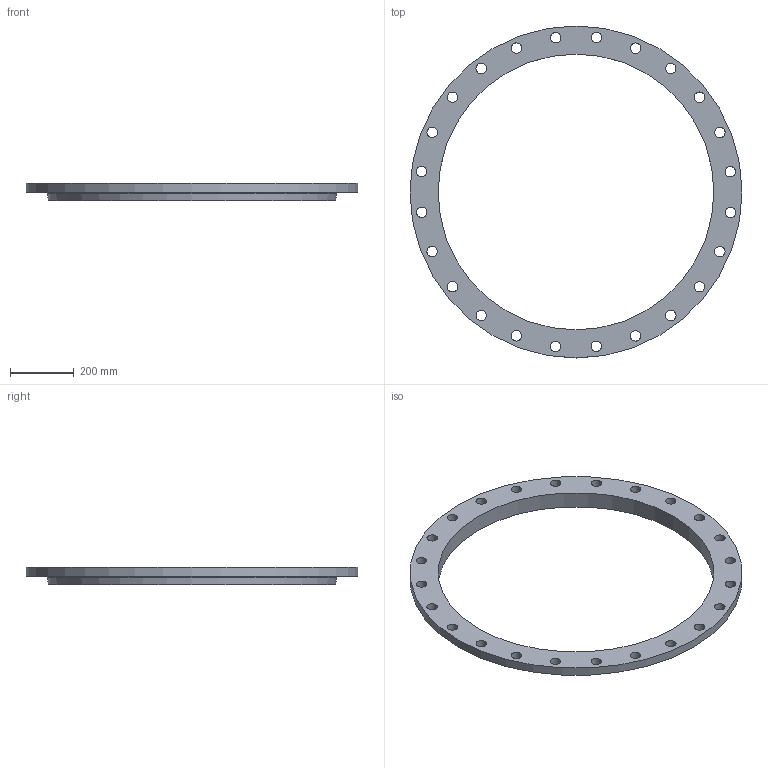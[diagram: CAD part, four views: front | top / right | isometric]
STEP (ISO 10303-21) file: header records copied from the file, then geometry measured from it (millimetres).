
FILE_DESCRIPTION(/* description */ (''),/* implementation_level */ '2;1');
FILE_NAME(/* name */ 'C:\Users\D\Documents\Inventor\HP\JIS\フランジ\JIS 5k soh ff\jis5k-soh-ff-850.stp',/* time_stamp */ '2024-08-29T14:25:10+09:00',/* author */ ('D'),/* organization */ (''),/* preprocessor_version */ 'ST-DEVELOPER v18',/* originating_system */ 'Autodesk Inventor 2020',/* authorisation */ '');
FILE_SCHEMA (('AUTOMOTIVE_DESIGN { 1 0 10303 214 3 1 1 }'));
Length unit declared in the file: millimetre
Products named in the file (1): jis5k-soh-ff-450
Bounding box: 1045 x 1045 x 54 mm (x, y, z)
Volume: 8332915.1 mm3; surface area: 859035.9 mm2
Topology: 1 solids, 1 shells, 31 faces, 114 edges, 86 vertices
Faces by surface type: cylinder 26, plane 3, torus 1, cone 1
Full cylindrical faces by diameter (mm): 33 x24, 868 x1, 1045 x1
Entity records: 1456 total; most frequent: DIRECTION 265, CARTESIAN_POINT 232, ORIENTED_EDGE 228, AXIS2_PLACEMENT_3D 119, EDGE_CURVE 114, CIRCLE 87, VERTEX_POINT 86, EDGE_LOOP 82
